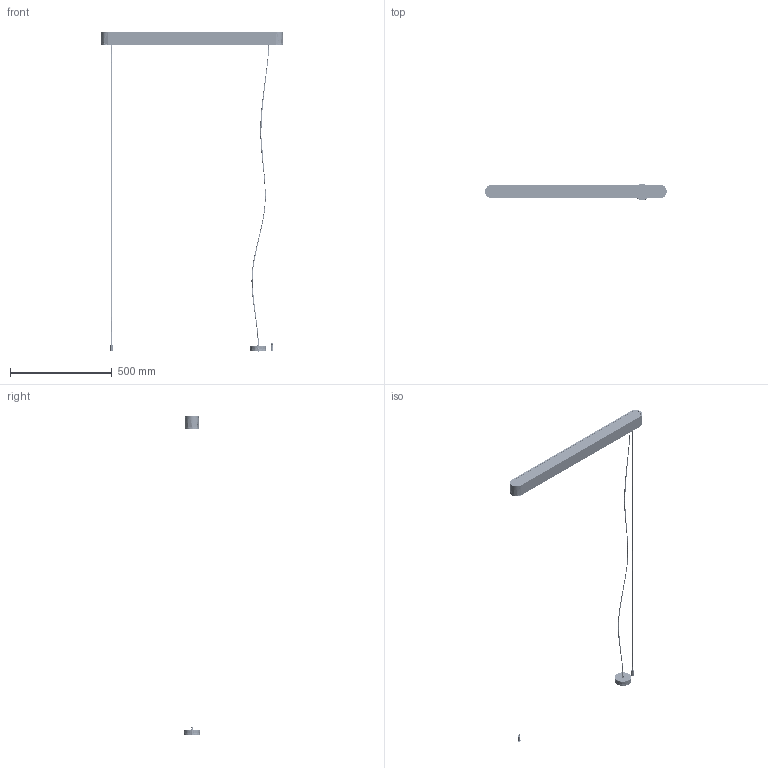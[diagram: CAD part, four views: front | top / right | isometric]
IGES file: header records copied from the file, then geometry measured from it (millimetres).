
Start section: SolidWorks IGES file using analytic representation for surfaces
Global section: file name: \\DC2003\projekty\soft\Profil 3D\Gotowe softy\SOFT 900 zwis.IGS; native system: SolidWorks 2016; preprocessor: SolidWorks 2016; author: Asia; date: 160711.123440; units: millimetre
Bounding box: 891.95 x 83.45 x 1566.5 mm (x, y, z)
Surface area: 820949.9 mm2 (no closed solid volume)
Topology: 0 solids, 0 shells, 3150 faces, 40728 edges, 40720 vertices
Faces by surface type: bspline 2033, revolution 1117
